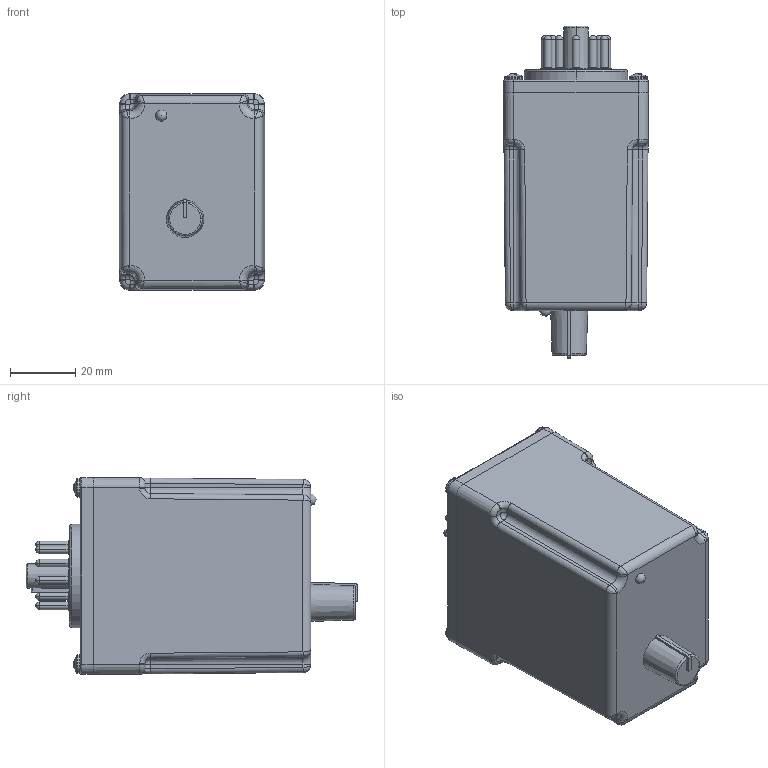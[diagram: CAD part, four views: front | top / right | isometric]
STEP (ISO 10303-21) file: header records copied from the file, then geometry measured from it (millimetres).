
FILE_DESCRIPTION(('FreeCAD Model'),'2;1');
FILE_NAME('Open CASCADE Shape Model','2023-06-06T12:03:41',(''),(''), 'Open CASCADE STEP processor 7.6','FreeCAD','Unknown');
FILE_SCHEMA(('AUTOMOTIVE_DESIGN { 1 0 10303 214 1 1 1 1 }'));
Products named in the file (1): Compound001
Bounding box: 44.45 x 101.73 x 60.33 mm (x, y, z)
Surface area: 45052.8 mm2 (no closed solid volume)
Topology: 0 solids, 23 shells, 1938 faces, 4780 edges, 2955 vertices
Faces by surface type: plane 594, cylinder 529, bspline 326, torus 284, revolution 140, cone 62, sphere 3
Entity records: 187150 total; most frequent: CARTESIAN_POINT 96690, DIRECTION 15066, ORIENTED_EDGE 9522, PCURVE 9522, DEFINITIONAL_REPRESENTATION 9522, LINE 8826, VECTOR 8826, EDGE_CURVE 4769
